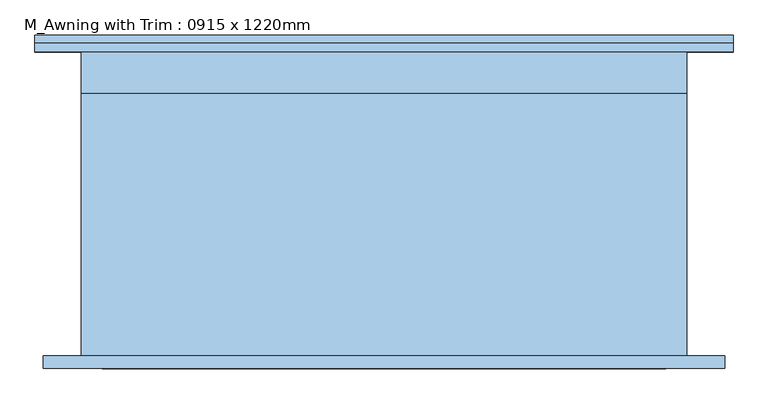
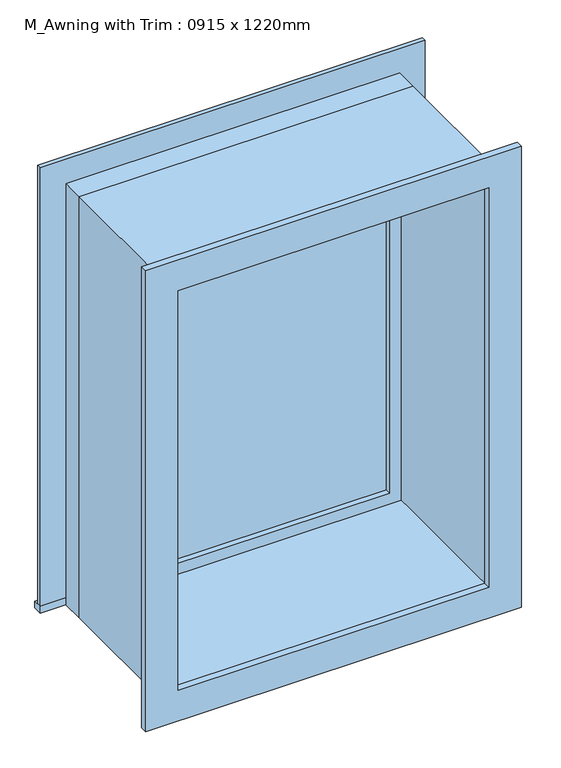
"""IFC4 building model written with IfcOpenShell, lengths in millimetres: window geometry, M_Awning with Trim : 0915 x 1220mm."""

from ifc_helpers import new_model, si_unit, frame, origin, place, context, project, spatial, polyline, outline, extrude, source, transform, mapped, element, save


def m_awning_with_trim_0915_x_1220mm_bfbb01a6(model_context):
    return source(origin(), model_context, "Body", "SweptSolid", [
        extrude(outline(polyline([(-527.45, 255.7), (527.45, 255.7), (527.45, 230.0), (-527.45, 230.0), (-527.45, 255.7)])), frame((0.0, 0.0, 915.0), z_axis=(0.0, 0.0, 1.0), x_axis=(1.0, 0.0, 0.0)), (0.0, 0.0, 1.0), 19.05),
        extrude(outline(polyline([(2115.95, -438.45), (2115.95, 438.45), (934.05, 438.45), (934.05, 527.45), (2204.95, 527.45), (2204.95, -527.45), (934.05, -527.45), (934.05, -438.45), (2115.95, -438.45)])), frame((0.0, 230.0, 0.0), z_axis=(0.0, 1.0, 0.0), x_axis=(0.0, 0.0, 1.0)), (0.0, 0.0, 1.0), 13.0),
        extrude(outline(polyline([(2192.25, 514.75), (2192.25, -514.75), (857.75, -514.75), (857.75, 514.75), (2192.25, 514.75)]), holes=[polyline([(2103.25, 425.75), (946.75, 425.75), (946.75, -425.75), (2103.25, -425.75), (2103.25, 425.75)])]), frame((0.0, -249.0, 0.0), z_axis=(0.0, 1.0, 0.0), x_axis=(0.0, 0.0, 1.0)), (0.0, 0.0, 1.0), 19.0),
        extrude(outline(polyline([(394.0, 182.425), (-394.0, 182.425), (-394.0, 195.125), (394.0, 195.125), (394.0, 182.425)])), frame((0.0, 0.0, 978.5), z_axis=(0.0, 0.0, 1.0), x_axis=(1.0, 0.0, 0.0)), (0.0, 0.0, 1.0), 1093.0),
        extrude(outline(polyline([(2115.95, -438.45), (934.05, -438.45), (934.05, 438.45), (2115.95, 438.45), (2115.95, -438.45)]), holes=[polyline([(2071.5, -394.0), (2071.5, 394.0), (978.5, 394.0), (978.5, -394.0), (2071.5, -394.0)])]), frame((0.0, 166.55, 0.0), z_axis=(0.0, 1.0, 0.0), x_axis=(0.0, 0.0, 1.0)), (0.0, 0.0, 1.0), 44.45),
        extrude(outline(polyline([(2135.0, -457.5), (915.0, -457.5), (915.0, 457.5), (2135.0, 457.5), (2135.0, -457.5)]), holes=[polyline([(2103.25, -425.75), (2103.25, 425.75), (946.75, 425.75), (946.75, -425.75), (2103.25, -425.75)])]), frame((0.0, -230.0, 0.0), z_axis=(0.0, 1.0, 0.0), x_axis=(0.0, 0.0, 1.0)), (0.0, 0.0, 1.0), 396.55),
        extrude(outline(polyline([(2135.0, 457.5), (2135.0, -457.5), (915.0, -457.5), (915.0, 457.5), (2135.0, 457.5)]), holes=[polyline([(2115.95, 438.45), (934.05, 438.45), (934.05, -438.45), (2115.95, -438.45), (2115.95, 438.45)])]), frame((0.0, 166.55, 0.0), z_axis=(0.0, 1.0, 0.0), x_axis=(0.0, 0.0, 1.0)), (0.0, 0.0, 1.0), 63.45),
    ])


if __name__ == "__main__":
    model = new_model("IFC4")
    model_context = context("Model", 3, world=origin())
    ifc_project = project(units=[si_unit("LENGTHUNIT", "METRE", prefix="MILLI")], contexts=[model_context])
    site = spatial("IfcSite", under=ifc_project)
    building = spatial("IfcBuilding", under=site)
    placement = place(None, origin())
    m_awning_with_trim_0915_x_1220mm_shape = m_awning_with_trim_0915_x_1220mm_bfbb01a6(model_context)
    element("IfcWindow", 1, ObjectType="M_Awning with Trim : 0915 x 1220mm", at=placement, inside=building, context=model_context, shape_type="MappedRepresentation", body=[
        mapped(m_awning_with_trim_0915_x_1220mm_shape, transform((0.0, 0.0, 0.0), x_axis=(1.0, 0.0, 0.0), y_axis=(0.0, 1.0, 0.0), z_axis=(0.0, 0.0, 1.0))),
    ])
    save(model, "model.ifc")
